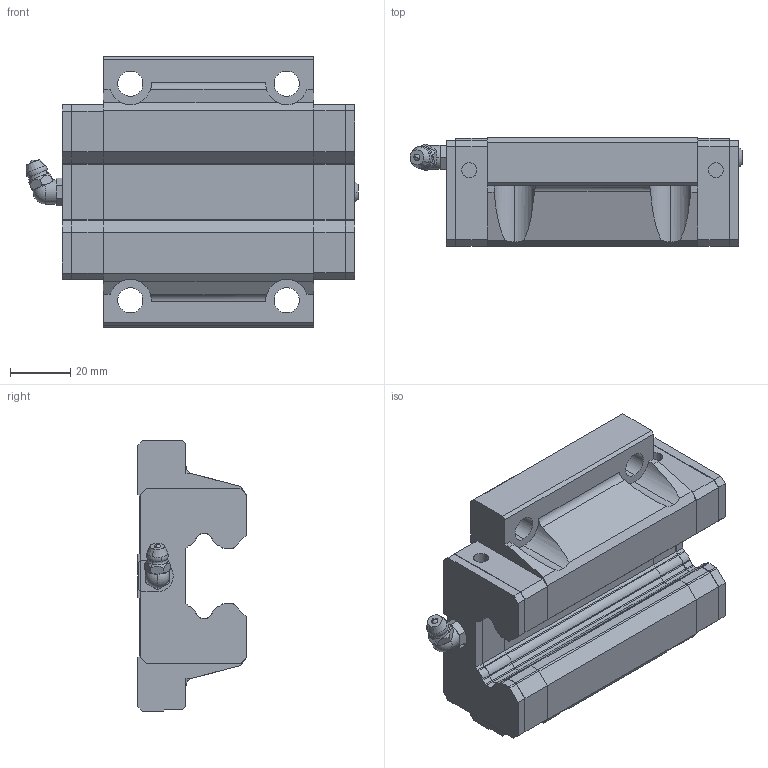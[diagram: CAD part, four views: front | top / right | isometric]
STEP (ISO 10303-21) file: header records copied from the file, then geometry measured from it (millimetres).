
FILE_DESCRIPTION (( 'STEP AP203' ), '1' );
FILE_NAME ('SGW30CA.STEP', '2025-06-27T06:06:00', ( 'Owner' ), ( 'Organization' ), 'SwSTEP 2.0', 'SolidWorks 2020', '' );
FILE_SCHEMA (( 'CONFIG_CONTROL_DESIGN' ));
Length unit declared in the file: millimetre
Products named in the file (1): SGW30CA
Bounding box: 110.4 x 36 x 90 mm (x, y, z)
Volume: 193951.2 mm3; surface area: 46306 mm2
Topology: 7 solids, 8 shells, 489 faces, 1322 edges, 859 vertices
Faces by surface type: plane 267, cylinder 158, cone 50, sphere 6, torus 6, bspline 2
Entity records: 15907 total; most frequent: CARTESIAN_POINT 3417, ORIENTED_EDGE 2636, DIRECTION 2592, EDGE_CURVE 1318, AXIS2_PLACEMENT_3D 876, VERTEX_POINT 857, LINE 840, VECTOR 840
